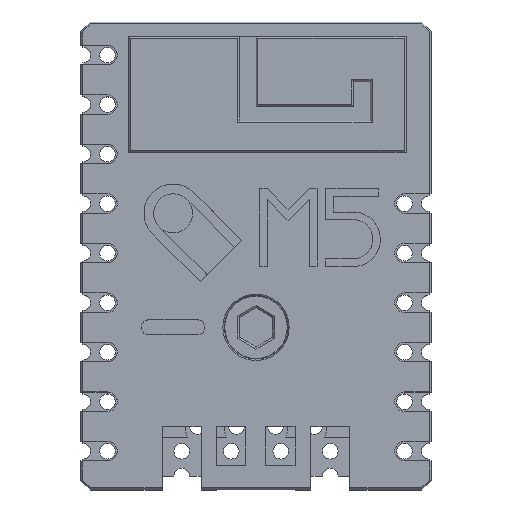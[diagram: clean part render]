
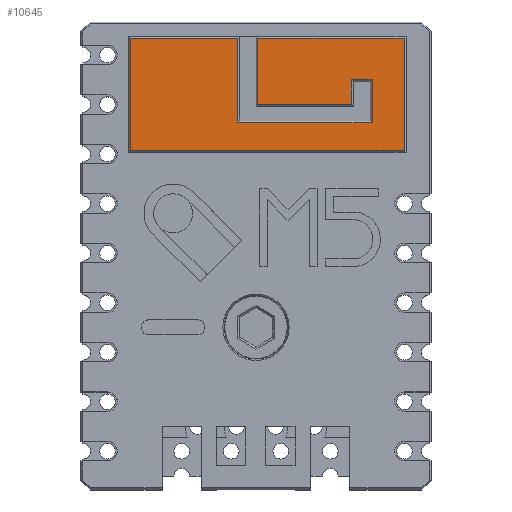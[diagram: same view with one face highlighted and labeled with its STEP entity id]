
A CAD part, top view. The second image highlights one B-rep face of the part: STEP entity #10645.
In plain terms, the highlighted planar face has unit normal (0, 0, 1).
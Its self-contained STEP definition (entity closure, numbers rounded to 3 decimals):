
#567=PLANE('',#11445);
#1122=FACE_OUTER_BOUND('',#1745,.T.);
#1745=EDGE_LOOP('',(#9878,#9879,#9880,#9881,#9882,#9883,#9884,#9885,#9886,
#9887,#9888,#9889));
#2955=LINE('',#17137,#4235);
#2959=LINE('',#17145,#4239);
#2962=LINE('',#17151,#4242);
#2965=LINE('',#17157,#4245);
#2968=LINE('',#17163,#4248);
#2971=LINE('',#17169,#4251);
#2974=LINE('',#17175,#4254);
#2978=LINE('',#17183,#4258);
#2981=LINE('',#17189,#4261);
#2984=LINE('',#17195,#4264);
#2987=LINE('',#17201,#4267);
#2990=LINE('',#17205,#4270);
#4235=VECTOR('',#14103,10.);
#4239=VECTOR('',#14109,10.);
#4242=VECTOR('',#14114,10.);
#4245=VECTOR('',#14119,10.);
#4248=VECTOR('',#14124,10.);
#4251=VECTOR('',#14129,10.);
#4254=VECTOR('',#14134,10.);
#4258=VECTOR('',#14140,10.);
#4261=VECTOR('',#14145,10.);
#4264=VECTOR('',#14150,10.);
#4267=VECTOR('',#14155,10.);
#4270=VECTOR('',#14160,10.);
#5471=VERTEX_POINT('',#17135);
#5472=VERTEX_POINT('',#17136);
#5475=VERTEX_POINT('',#17144);
#5477=VERTEX_POINT('',#17150);
#5479=VERTEX_POINT('',#17156);
#5481=VERTEX_POINT('',#17162);
#5483=VERTEX_POINT('',#17168);
#5485=VERTEX_POINT('',#17174);
#5488=VERTEX_POINT('',#17182);
#5490=VERTEX_POINT('',#17188);
#5492=VERTEX_POINT('',#17194);
#5494=VERTEX_POINT('',#17200);
#6920=EDGE_CURVE('',#5471,#5472,#2955,.T.);
#6924=EDGE_CURVE('',#5472,#5475,#2959,.T.);
#6927=EDGE_CURVE('',#5475,#5477,#2962,.T.);
#6930=EDGE_CURVE('',#5477,#5479,#2965,.T.);
#6933=EDGE_CURVE('',#5479,#5481,#2968,.T.);
#6936=EDGE_CURVE('',#5481,#5483,#2971,.T.);
#6939=EDGE_CURVE('',#5483,#5485,#2974,.T.);
#6943=EDGE_CURVE('',#5485,#5488,#2978,.T.);
#6946=EDGE_CURVE('',#5488,#5490,#2981,.T.);
#6949=EDGE_CURVE('',#5490,#5492,#2984,.T.);
#6952=EDGE_CURVE('',#5492,#5494,#2987,.T.);
#6955=EDGE_CURVE('',#5494,#5471,#2990,.T.);
#9878=ORIENTED_EDGE('',*,*,#6920,.F.);
#9879=ORIENTED_EDGE('',*,*,#6955,.F.);
#9880=ORIENTED_EDGE('',*,*,#6952,.F.);
#9881=ORIENTED_EDGE('',*,*,#6949,.F.);
#9882=ORIENTED_EDGE('',*,*,#6946,.F.);
#9883=ORIENTED_EDGE('',*,*,#6943,.F.);
#9884=ORIENTED_EDGE('',*,*,#6939,.F.);
#9885=ORIENTED_EDGE('',*,*,#6936,.F.);
#9886=ORIENTED_EDGE('',*,*,#6933,.F.);
#9887=ORIENTED_EDGE('',*,*,#6930,.F.);
#9888=ORIENTED_EDGE('',*,*,#6927,.F.);
#9889=ORIENTED_EDGE('',*,*,#6924,.F.);
#10645=ADVANCED_FACE('',(#1122),#567,.T.);
#11445=AXIS2_PLACEMENT_3D('',#17240,#14190,#14191);
#14103=DIRECTION('',(0.,-1.,0.));
#14109=DIRECTION('',(1.,0.,0.));
#14114=DIRECTION('',(0.,1.,0.));
#14119=DIRECTION('',(-1.,0.,0.));
#14124=DIRECTION('',(0.,-1.,0.));
#14129=DIRECTION('',(-1.,0.,0.));
#14134=DIRECTION('',(0.,1.,0.));
#14140=DIRECTION('',(1.,0.,0.));
#14145=DIRECTION('',(0.,-1.,0.));
#14150=DIRECTION('',(-1.,0.,0.));
#14155=DIRECTION('',(0.,1.,0.));
#14160=DIRECTION('',(1.,0.,0.));
#14190=DIRECTION('center_axis',(0.,0.,1.));
#14191=DIRECTION('ref_axis',(1.,0.,0.));
#17135=CARTESIAN_POINT('',(-0.941,14.839,4.4));
#17136=CARTESIAN_POINT('',(-0.941,10.482,4.4));
#17137=CARTESIAN_POINT('',(-0.941,11.269,4.4));
#17144=CARTESIAN_POINT('',(5.953,10.482,4.4));
#17145=CARTESIAN_POINT('',(3.212,10.482,4.4));
#17150=CARTESIAN_POINT('',(5.953,12.688,4.4));
#17151=CARTESIAN_POINT('',(5.953,12.272,4.4));
#17156=CARTESIAN_POINT('',(4.9,12.688,4.4));
#17157=CARTESIAN_POINT('',(2.785,12.688,4.4));
#17162=CARTESIAN_POINT('',(4.9,11.452,4.4));
#17163=CARTESIAN_POINT('',(4.9,11.654,4.4));
#17168=CARTESIAN_POINT('',(0.1,11.452,4.4));
#17169=CARTESIAN_POINT('',(0.285,11.452,4.4));
#17174=CARTESIAN_POINT('',(0.1,14.839,4.4));
#17175=CARTESIAN_POINT('',(0.1,13.447,4.4));
#17182=CARTESIAN_POINT('',(7.596,14.839,4.4));
#17183=CARTESIAN_POINT('',(4.133,14.839,4.4));
#17188=CARTESIAN_POINT('',(7.596,9.073,4.4));
#17189=CARTESIAN_POINT('',(7.596,10.464,4.4));
#17194=CARTESIAN_POINT('',(-6.455,9.073,4.4));
#17195=CARTESIAN_POINT('',(-2.993,9.073,4.4));
#17200=CARTESIAN_POINT('',(-6.455,14.839,4.4));
#17201=CARTESIAN_POINT('',(-6.455,13.447,4.4));
#17205=CARTESIAN_POINT('',(-0.135,14.839,4.4));
#17240=CARTESIAN_POINT('Origin',(0.57,11.956,4.4));
